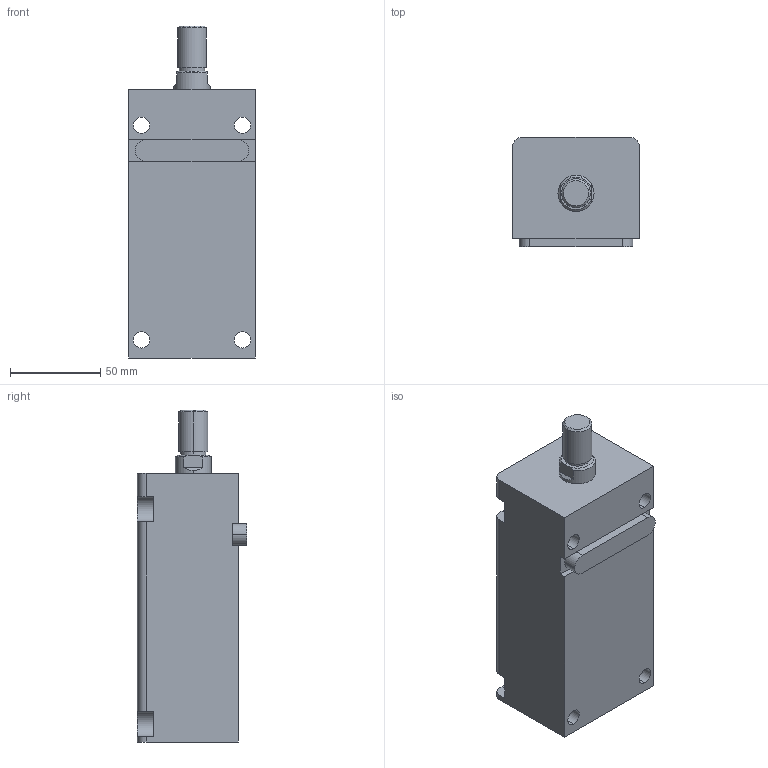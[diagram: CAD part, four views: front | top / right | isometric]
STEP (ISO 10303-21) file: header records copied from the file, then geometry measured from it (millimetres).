
FILE_DESCRIPTION (( 'STEP AP203' ), '1' );
FILE_NAME ('HTB-LA32-95W.STEP', '2019-10-09T06:33:00', ( '微软用户' ), ( '微软中国' ), 'SwSTEP 2.0', 'SolidWorks 2012', '' );
FILE_SCHEMA (( 'CONFIG_CONTROL_DESIGN' ));
Length unit declared in the file: millimetre
Products named in the file (4): HTB-LA32-95掛极; HTB-LA32-95W活塞杆; HTB-LA32-瑩; HTB-LA32-95W
Assembly tree (3 placements, depth 2):
  HTB-LA32-95W
    HTB-LA32-95掛极
    HTB-LA32-95W活塞杆
    HTB-LA32-瑩
Bounding box: 70 x 60.5 x 184 mm (x, y, z)
Volume: 526684 mm3; surface area: 80865.6 mm2
Topology: 3 solids, 3 shells, 92 faces, 223 edges, 146 vertices
Faces by surface type: plane 41, cylinder 37, cone 8, torus 6
Entity records: 3159 total; most frequent: DIRECTION 509, CARTESIAN_POINT 495, ORIENTED_EDGE 446, EDGE_CURVE 223, AXIS2_PLACEMENT_3D 196, VERTEX_POINT 146, VECTOR 117, LINE 117
